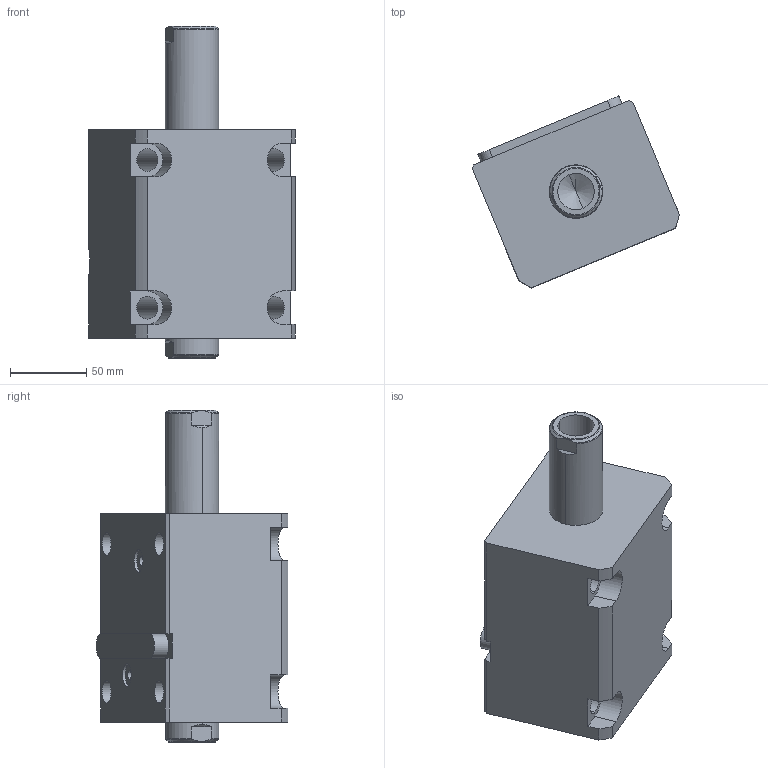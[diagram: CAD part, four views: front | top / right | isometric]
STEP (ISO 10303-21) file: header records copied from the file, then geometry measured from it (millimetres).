
FILE_DESCRIPTION (( 'STEP AP214' ), '1' );
FILE_NAME ('chtb-lwm63x55n_asm.STEP', '2018-05-22T02:18:45', ( 'Windows' ), ( 'Microsoft' ), 'SwSTEP 2.0', 'SolidWorks 2015', '' );
FILE_SCHEMA (( 'AUTOMOTIVE_DESIGN' ));
Length unit declared in the file: millimetre
Products named in the file (5): CHTB-SW63X55NHSG; CHTB-LWM63X55NBT; CHTB-LA63PJ; CHTB-63QG; chtb-lwm63x55n_asm
Assembly tree (4 placements, depth 2):
  chtb-lwm63x55n_asm
    CHTB-63QG
    CHTB-LA63PJ
    CHTB-LWM63X55NBT
    CHTB-SW63X55NHSG
Bounding box: 135.77 x 126.06 x 218 mm (x, y, z)
Volume: 1251848.5 mm3; surface area: 174703.9 mm2
Topology: 4 solids, 4 shells, 186 faces, 543 edges, 367 vertices
Faces by surface type: cylinder 103, plane 47, bspline 12, cone 12, torus 12
Entity records: 18665 total; most frequent: CARTESIAN_POINT 13839, ORIENTED_EDGE 1070, DIRECTION 834, EDGE_CURVE 535, VERTEX_POINT 367, AXIS2_PLACEMENT_3D 318, EDGE_LOOP 212, VECTOR 198
